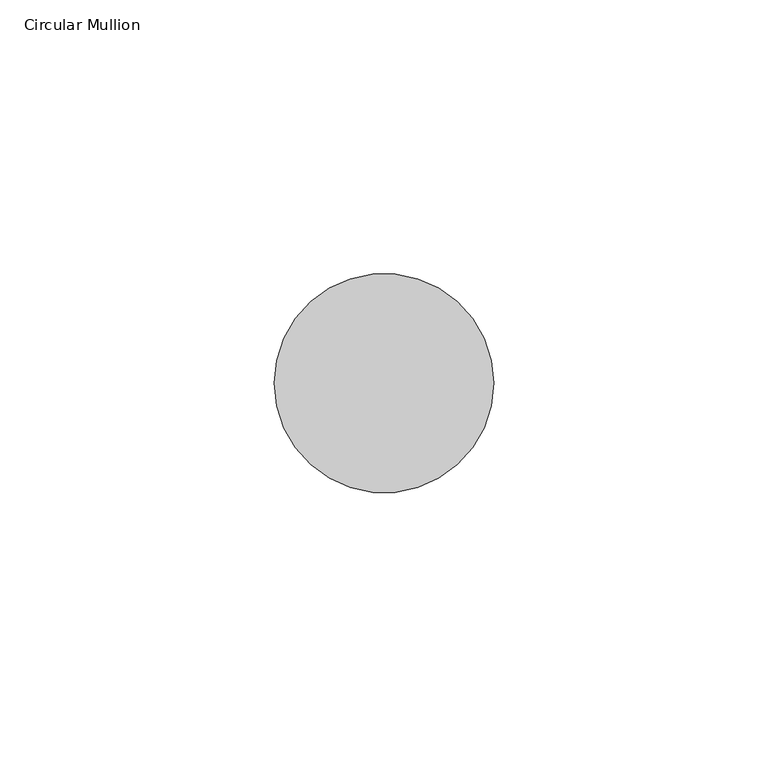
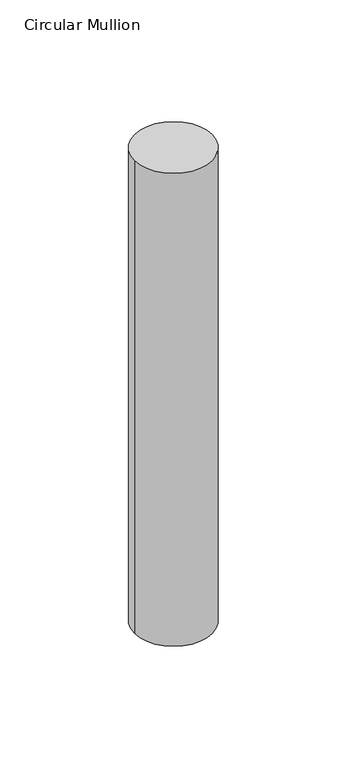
"""IFC4 building model written with IfcOpenShell, lengths in millimetres: member geometry, Circular Mullion : GRADIL 40mm."""

from ifc_helpers import new_model, si_unit, point, frame, frame_2d, origin, place, context, project, spatial, circle_curve, trimmed, segment, composite_curve, outline, extrude, source, transform, mapped, element, save


def circular_mullion_8275ad20(model_context):
    return source(origin(), model_context, "Body", "SweptSolid", [
        extrude(outline(composite_curve([segment(trimmed(circle_curve(frame_2d((-20.0, 0.0)), 20.0), [point((0.0, 0.0))], [point((-40.0, 0.0))], False, "CARTESIAN"), True, "CONTINUOUS"), segment(trimmed(circle_curve(frame_2d((-20.0, 0.0)), 20.0), [point((-40.0, 0.0))], [point((0.0, 0.0))], False, "CARTESIAN"), True, "CONTINUOUS")], self_intersect=False)), frame((0.0, 0.0, -256.7936467), z_axis=(0.0, 0.0, 1.0), x_axis=(1.0, 0.0, 0.0)), (0.0, 0.0, 1.0), 256.7936467),
    ])


if __name__ == "__main__":
    model = new_model("IFC4")
    model_context = context("Model", 3, world=origin())
    ifc_project = project(units=[si_unit("LENGTHUNIT", "METRE", prefix="MILLI")], contexts=[model_context])
    site = spatial("IfcSite", under=ifc_project)
    building = spatial("IfcBuilding", under=site)
    placement = place(None, origin())
    circular_mullion_shape = circular_mullion_8275ad20(model_context)
    element("IfcMember", 1, ObjectType="Circular Mullion : GRADIL 40mm", at=placement, inside=building, context=model_context, shape_type="MappedRepresentation", body=[
        mapped(circular_mullion_shape, transform((0.0, 0.0, 0.0), x_axis=(1.0, 0.0, 0.0), y_axis=(0.0, 1.0, 0.0), z_axis=(0.0, 0.0, 1.0))),
    ])
    save(model, "model.ifc")
